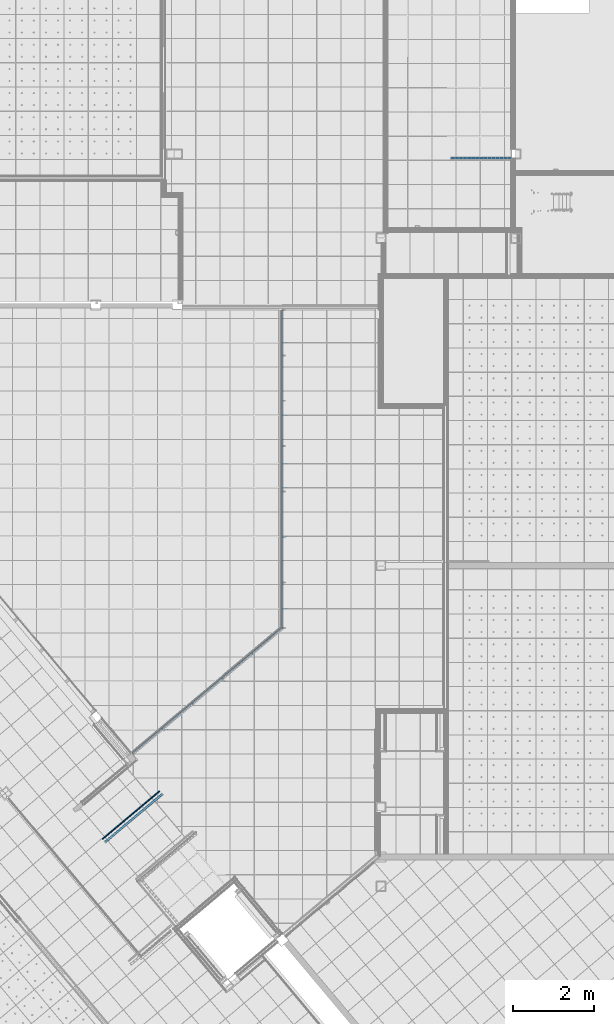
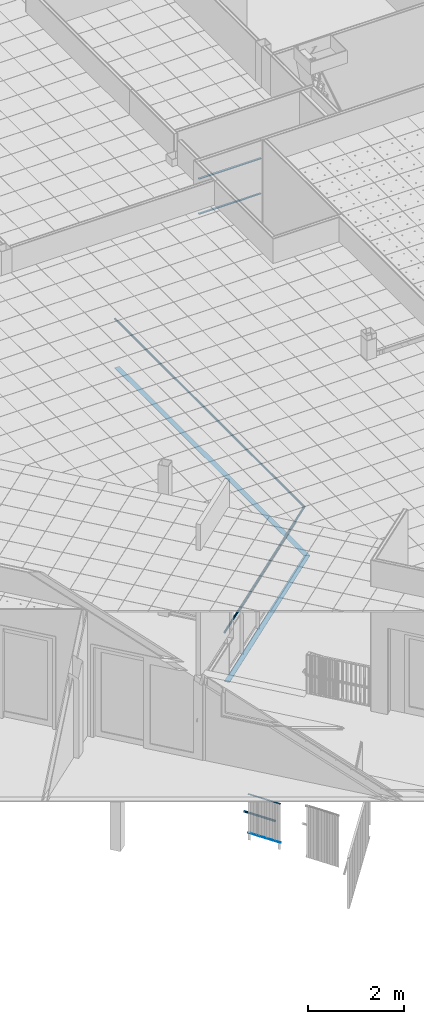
# One storey, part 33 of 321: 9 members, 3 elements without a shape of their own.
"""IFC2X3 building model written with IfcOpenShell, lengths in millimetres."""

from ifc_helpers import new_model, entity, si_unit, converted_unit, derived_unit, money_unit, direction, frame, origin_with_axes, place, context, subcontext, project, spatial, faceted_brep, material, type_object, element, aggregate, save


model = new_model("IFC2X3")

# Units and contexts
model_context = context("Model", 3, precision=0.01, world=origin_with_axes(), true_north=direction((0.0, 1.0)))
plan_context = context("Plan", 3, precision=0.01, world=origin_with_axes(), true_north=direction((0.0, 1.0)))
body_context = subcontext(model_context, "Body", "Model", "MODEL_VIEW")
ifc_project = project(units=[si_unit("LENGTHUNIT", "METRE", prefix="MILLI"), si_unit("AREAUNIT", "SQUARE_METRE"), si_unit("VOLUMEUNIT", "CUBIC_METRE"), converted_unit("PLANEANGLEUNIT", "DEGREE", entity("IfcPlaneAngleMeasure", 0.0174532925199), si_unit("PLANEANGLEUNIT", "RADIAN"), dimensions=[0, 0, 0, 0, 0, 0, 0]), money_unit("EUR"), converted_unit("TIMEUNIT", "Year", entity("IfcTimeMeasure", 31556926.0), si_unit("TIMEUNIT", "SECOND"), dimensions=[0, 0, 1, 0, 0, 0, 0]), si_unit("MASSUNIT", "GRAM", prefix="KILO"), si_unit("THERMODYNAMICTEMPERATUREUNIT", "DEGREE_CELSIUS"), si_unit("LUMINOUSINTENSITYUNIT", "LUMEN"), si_unit("ENERGYUNIT", "JOULE", prefix="MEGA"), derived_unit("THERMALCONDUCTANCEUNIT", [(si_unit("POWERUNIT", "WATT"), 1), (si_unit("LENGTHUNIT", "METRE"), -1), (si_unit("THERMODYNAMICTEMPERATUREUNIT", "KELVIN"), -1)]), derived_unit("SPECIFICHEATCAPACITYUNIT", [(si_unit("ENERGYUNIT", "JOULE"), 1), (si_unit("MASSUNIT", "GRAM", prefix="KILO"), -1), (si_unit("THERMODYNAMICTEMPERATUREUNIT", "KELVIN"), -1)]), derived_unit("MASSDENSITYUNIT", [(si_unit("MASSUNIT", "GRAM", prefix="KILO"), 1), (si_unit("VOLUMEUNIT", "CUBIC_METRE"), -1)])], contexts=[model_context, plan_context])

# Site, building, storey
site_placement = place(None, origin_with_axes())
site = spatial("IfcSite", under=ifc_project, at=site_placement, Name="Fortuinstraat Woensdrecht", CompositionType="ELEMENT")
building_placement = place(site_placement, origin_with_axes())
building = spatial("IfcBuilding", under=site, at=building_placement, Name="IKC Fortuna", CompositionType="ELEMENT")
storey_placement = place(building_placement, frame((0.0, 0.0, 4000.0), z_axis=(0.0, 0.0, 1.0), x_axis=(1.0, 0.0, 0.0)))
storey = spatial("IfcBuildingStorey", under=building, at=storey_placement, Name="01 eerste verdieping", CompositionType="ELEMENT", Elevation=4000.0)

# Railing, members
railing_type = type_object("IfcRailingType", Name="Railing Type", PredefinedType="NOTDEFINED")
railing_1_placement = place(storey_placement, frame((23270.4349765, 16097.2790326, 0.0), z_axis=(0.0, 0.0, 1.0), x_axis=(-1.0, 0.0, 0.0)))
railing_1 = element("IfcRailing", 1, at=railing_1_placement, inside=storey, type_object=railing_type, Name="34_Reling_Reling vide", PredefinedType="NOTDEFINED")
ifc_material = material(Name="Metaal - RVS")
member_type = type_object("IfcMemberType", Name="IfcMember", PredefinedType="USERDEFINED")
member_1_placement = place(railing_1_placement, frame((100.0, 3983.38437738, 1144.09830056), z_axis=(0.0, 0.0, 1.0), x_axis=(-1.0, 0.0, 0.0)))
member_1 = element("IfcMember", 2, at=member_1_placement, type_object=member_type, material=ifc_material, Name="_Reling - regel_Handregel-x", context=body_context, shape_type="Brep", body=[
    faceted_brep([(25.0, 3945.90197306, 30.9016994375), (24.6201938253, 3945.90197306, 35.2429038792), (24.6201938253, -3957.38255798, 35.2429038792), (25.0, -3957.55966451, 30.9016994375), (24.6201938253, 3945.90197306, 26.5604949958), (23.4923155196, 3945.90197306, 22.3511958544), (21.6506350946, 3945.90197306, 18.4016994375), (19.151111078, 3945.90197306, 14.8320091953), (16.0696902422, 3945.90197306, 11.7505883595), (12.5, 3945.90197306, 9.25106434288), (8.55050358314, 3945.90197306, 7.40938391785), (4.34120444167, 3945.90197306, 6.28150561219), (0.0, 3945.90197306, 5.9016994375), (-4.34120444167, 3945.90197306, 6.28150561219), (-8.55050358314, 3945.90197306, 7.40938391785), (-12.5, 3945.90197306, 9.25106434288), (-16.0696902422, 3945.90197306, 11.7505883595), (-19.151111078, 3945.90197306, 14.8320091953), (-21.6506350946, 3945.90197306, 18.4016994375), (-23.4923155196, 3945.90197306, 22.3511958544), (-24.6201938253, 3945.90197306, 26.5604949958), (-25.0, 3945.90197306, 30.9016994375), (-24.6201938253, 3945.90197306, 35.2429038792), (-23.4923155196, 3945.90197306, 39.4522030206), (-21.6506350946, 3945.90197306, 43.4016994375), (-19.151111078, 3945.90197306, 46.9713896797), (-16.0696902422, 3945.90197306, 50.0528105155), (-12.5, 3945.90197306, 52.5523345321), (-8.55050358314, 3945.90197306, 54.3940149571), (-4.34120444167, 3945.90197306, 55.5218932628), (0.0, 3945.90197306, 55.9016994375), (4.34120444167, 3945.90197306, 55.5218932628), (8.55050358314, 3945.90197306, 54.3940149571), (12.5, 3945.90197306, 52.5523345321), (16.0696902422, 3945.90197306, 50.0528105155), (19.151111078, 3945.90197306, 46.9713896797), (21.6506350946, 3945.90197306, 43.4016994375), (23.4923155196, 3945.90197306, 39.4522030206), (23.0, 3945.90197306, 30.9016994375), (22.6505783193, 3945.90197306, 34.8956075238), (21.6129302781, 3945.90197306, 38.768162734), (19.918584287, 3945.90197306, 42.4016994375), (17.6190221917, 3945.90197306, 45.6858144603), (14.7841150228, 3945.90197306, 48.5207216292), (11.5, 3945.90197306, 50.8202837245), (7.86646329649, 3945.90197306, 52.5146297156), (3.99390808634, 3945.90197306, 53.5522777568), (0.0, 3945.90197306, 53.9016994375), (-3.99390808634, 3945.90197306, 53.5522777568), (-7.86646329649, 3945.90197306, 52.5146297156), (-11.5, 3945.90197306, 50.8202837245), (-14.7841150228, 3945.90197306, 48.5207216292), (-17.6190221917, 3945.90197306, 45.6858144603), (-19.918584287, 3945.90197306, 42.4016994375), (-21.6129302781, 3945.90197306, 38.768162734), (-22.6505783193, 3945.90197306, 34.8956075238), (-23.0, 3945.90197306, 30.9016994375), (-22.6505783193, 3945.90197306, 26.9077913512), (-21.6129302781, 3945.90197306, 23.035236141), (-19.918584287, 3945.90197306, 19.4016994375), (-17.6190221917, 3945.90197306, 16.1175844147), (-14.7841150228, 3945.90197306, 13.2826772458), (-11.5, 3945.90197306, 10.9831151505), (-7.86646329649, 3945.90197306, 9.28876915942), (-3.99390808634, 3945.90197306, 8.25112111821), (0.0, 3945.90197306, 7.90169943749), (3.99390808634, 3945.90197306, 8.25112111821), (7.86646329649, 3945.90197306, 9.28876915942), (11.5, 3945.90197306, 10.9831151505), (14.7841150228, 3945.90197306, 13.2826772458), (17.6190221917, 3945.90197306, 16.1175844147), (19.918584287, 3945.90197306, 19.4016994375), (21.6129302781, 3945.90197306, 23.035236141), (22.6505783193, 3945.90197306, 26.9077913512), (23.4923155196, -3956.85661969, 39.4522030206), (21.6506350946, -3955.99783001, 43.4016994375), (19.151111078, -3954.83228281, 46.9713896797), (16.0696902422, -3953.39539268, 50.0528105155), (12.5, -3951.73081878, 52.5523345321), (8.55050358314, -3949.88913836, 54.3940149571), (4.34120444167, -3947.92630993, 55.5218932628), (0.0, -3945.90197306, 55.9016994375), (-4.34120444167, -3943.87763618, 55.5218932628), (-8.55050358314, -3941.91480775, 54.3940149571), (-12.5, -3940.07312733, 52.5523345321), (-16.0696902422, -3938.40855343, 50.0528105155), (-19.151111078, -3936.9716633, 46.9713896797), (-21.6506350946, -3935.80611611, 43.4016994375), (-23.4923155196, -3934.94732642, 39.4522030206), (-24.6201938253, -3934.42138813, 35.2429038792), (-25.0, -3934.2442816, 30.9016994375), (-24.6201938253, -3934.42138813, 26.5604949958), (-23.4923155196, -3934.94732642, 22.3511958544), (-21.6506350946, -3935.80611611, 18.4016994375), (-19.151111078, -3936.9716633, 14.8320091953), (-16.0696902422, -3938.40855343, 11.7505883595), (-12.5, -3940.07312733, 9.25106434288), (-8.55050358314, -3941.91480775, 7.40938391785), (-4.34120444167, -3943.87763618, 6.28150561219), (0.0, -3945.90197306, 5.9016994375), (4.34120444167, -3947.92630993, 6.28150561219), (8.55050358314, -3949.88913836, 7.40938391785), (12.5, -3951.73081878, 9.25106434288), (16.0696902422, -3953.39539268, 11.7505883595), (19.151111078, -3954.83228281, 14.8320091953), (21.6506350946, -3955.99783001, 18.4016994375), (23.4923155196, -3956.85661969, 22.3511958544), (24.6201938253, -3957.38255798, 26.5604949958), (23.0, -3956.62704919, 30.9016994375), (22.6505783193, -3956.46411119, 26.9077913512), (21.6129302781, -3955.98024796, 23.035236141), (19.918584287, -3955.19016145, 19.4016994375), (17.6190221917, -3954.11785803, 16.1175844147), (14.7841150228, -3952.79591911, 13.2826772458), (11.5, -3951.26451113, 10.9831151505), (7.86646329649, -3949.57016513, 9.28876915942), (3.99390808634, -3947.76436298, 8.25112111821), (0.0, -3945.90197306, 7.90169943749), (-3.99390808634, -3944.03958313, 8.25112111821), (-7.86646329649, -3942.23378098, 9.28876915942), (-11.5, -3940.53943499, 10.9831151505), (-14.7841150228, -3939.008027, 13.2826772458), (-17.6190221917, -3937.68608808, 16.1175844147), (-19.918584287, -3936.61378466, 19.4016994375), (-21.6129302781, -3935.82369815, 23.035236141), (-22.6505783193, -3935.33983492, 26.9077913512), (-23.0, -3935.17689692, 30.9016994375), (-22.6505783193, -3935.33983492, 34.8956075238), (-21.6129302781, -3935.82369815, 38.768162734), (-19.918584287, -3936.61378466, 42.4016994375), (-17.6190221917, -3937.68608808, 45.6858144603), (-14.7841150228, -3939.008027, 48.5207216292), (-11.5, -3940.53943499, 50.8202837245), (-7.86646329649, -3942.23378098, 52.5146297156), (-3.99390808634, -3944.03958313, 53.5522777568), (0.0, -3945.90197306, 53.9016994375), (3.99390808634, -3947.76436298, 53.5522777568), (7.86646329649, -3949.57016513, 52.5146297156), (11.5, -3951.26451113, 50.8202837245), (14.7841150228, -3952.79591911, 48.5207216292), (17.6190221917, -3954.11785803, 45.6858144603), (19.918584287, -3955.19016145, 42.4016994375), (21.6129302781, -3955.98024796, 38.768162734), (22.6505783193, -3956.46411119, 34.8956075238)], [[[0, 1, 2, 3]], [[0, 4, 5, 6, 7, 8, 9, 10, 11, 12, 13, 14, 15, 16, 17, 18, 19, 20, 21, 22, 23, 24, 25, 26, 27, 28, 29, 30, 31, 32, 33, 34, 35, 36, 37, 1], [38, 39, 40, 41, 42, 43, 44, 45, 46, 47, 48, 49, 50, 51, 52, 53, 54, 55, 56, 57, 58, 59, 60, 61, 62, 63, 64, 65, 66, 67, 68, 69, 70, 71, 72, 73]], [[1, 37, 74, 2]], [[3, 2, 74, 75, 76, 77, 78, 79, 80, 81, 82, 83, 84, 85, 86, 87, 88, 89, 90, 91, 92, 93, 94, 95, 96, 97, 98, 99, 100, 101, 102, 103, 104, 105, 106, 107], [108, 109, 110, 111, 112, 113, 114, 115, 116, 117, 118, 119, 120, 121, 122, 123, 124, 125, 126, 127, 128, 129, 130, 131, 132, 133, 134, 135, 136, 137, 138, 139, 140, 141, 142, 143]], [[4, 0, 3, 107]], [[5, 4, 107, 106]], [[6, 5, 106, 105]], [[7, 6, 105, 104]], [[8, 7, 104, 103]], [[9, 8, 103, 102]], [[10, 9, 102, 101]], [[11, 10, 101, 100]], [[12, 11, 100, 99]], [[13, 12, 99, 98]], [[14, 13, 98, 97]], [[15, 14, 97, 96]], [[16, 15, 96, 95]], [[17, 16, 95, 94]], [[18, 17, 94, 93]], [[19, 18, 93, 92]], [[20, 19, 92, 91]], [[21, 20, 91, 90]], [[22, 21, 90, 89]], [[23, 22, 89, 88]], [[24, 23, 88, 87]], [[25, 24, 87, 86]], [[26, 25, 86, 85]], [[27, 26, 85, 84]], [[28, 27, 84, 83]], [[29, 28, 83, 82]], [[30, 29, 82, 81]], [[31, 30, 81, 80]], [[32, 31, 80, 79]], [[33, 32, 79, 78]], [[34, 33, 78, 77]], [[35, 34, 77, 76]], [[36, 35, 76, 75]], [[37, 36, 75, 74]], [[39, 38, 108, 143]], [[40, 39, 143, 142]], [[41, 40, 142, 141]], [[42, 41, 141, 140]], [[43, 42, 140, 139]], [[44, 43, 139, 138]], [[45, 44, 138, 137]], [[46, 45, 137, 136]], [[47, 46, 136, 135]], [[48, 47, 135, 134]], [[49, 48, 134, 133]], [[50, 49, 133, 132]], [[51, 50, 132, 131]], [[52, 51, 131, 130]], [[53, 52, 130, 129]], [[54, 53, 129, 128]], [[55, 54, 128, 127]], [[56, 55, 127, 126]], [[57, 56, 126, 125]], [[58, 57, 125, 124]], [[59, 58, 124, 123]], [[60, 59, 123, 122]], [[61, 60, 122, 121]], [[62, 61, 121, 120]], [[63, 62, 120, 119]], [[64, 63, 119, 118]], [[65, 64, 118, 117]], [[66, 65, 117, 116]], [[67, 66, 116, 115]], [[68, 67, 115, 114]], [[69, 68, 114, 113]], [[70, 69, 113, 112]], [[71, 70, 112, 111]], [[72, 71, 111, 110]], [[73, 72, 110, 109]], [[38, 73, 109, 108]]]),
])
member_2_placement = place(railing_1_placement, frame((50.0, 3995.04206883, -135.207972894), z_axis=(0.0, 0.0, 1.0), x_axis=(-1.0, 0.0, 0.0)))
member_2 = element("IfcMember", 3, at=member_2_placement, type_object=member_type, material=ifc_material, Name="_Reling - regel_Regel-x", context=body_context, shape_type="Brep", body=[
    faceted_brep([(-60.0, 3957.55966451, 65.207972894), (-60.0, 3957.55966451, 55.207972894), (-60.0, -3929.58120502, 55.207972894), (-60.0, -3929.58120502, 65.207972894), (60.0, 3957.55966451, 65.207972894), (60.0, 3957.55966451, 55.207972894), (60.0, -3985.538124, 55.207972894), (60.0, -3985.538124, 65.207972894)], [[[0, 1, 2, 3]], [[0, 4, 5, 1]], [[1, 5, 6, 2]], [[3, 2, 6, 7]], [[4, 0, 3, 7]], [[5, 4, 7, 6]]]),
])
member_3_placement = place(railing_1_placement, frame((1960.47961043, 9490.41410536, 1144.09830056), z_axis=(0.0, 0.0, 1.0), x_axis=(-1.0, 0.0, 0.0)))
member_3 = element("IfcMember", 4, at=member_3_placement, type_object=member_type, material=ifc_material, Name="_Reling - regel_Handregel-x", context=body_context, shape_type="Brep", body=[
    faceted_brep([(1885.47961043, 1549.47006347, 30.9016994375), (1885.09980426, 1549.64717, 35.2429038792), (-1844.6540549, -1579.9879176, 35.2429038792), (-1844.40992019, -1580.27886601, 30.9016994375), (1885.09980426, 1549.64717, 26.5604949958), (1883.97192595, 1550.17310829, 22.3511958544), (1882.13024553, 1551.03189798, 18.4016994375), (1879.63072151, 1552.19744517, 14.8320091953), (1876.54930068, 1553.6343353, 11.7505883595), (1872.97961043, 1555.2989092, 9.25106434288), (1869.03011402, 1557.14058963, 7.40938391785), (1864.82081488, 1559.10341805, 6.28150561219), (1860.47961043, 1561.12775493, 5.9016994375), (1856.13840599, 1563.1520918, 6.28150561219), (1851.92910685, 1565.11492023, 7.40938391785), (1847.97961043, 1566.95660066, 9.25106434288), (1844.40992019, 1568.62117455, 11.7505883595), (1841.32849936, 1570.05806469, 14.8320091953), (1838.82897534, 1571.22361188, 18.4016994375), (1836.98729491, 1572.08240156, 22.3511958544), (1835.85941661, 1572.60833985, 26.5604949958), (1835.47961043, 1572.78544638, 30.9016994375), (1835.85941661, 1572.60833985, 35.2429038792), (1836.98729491, 1572.08240156, 39.4522030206), (1838.82897534, 1571.22361188, 43.4016994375), (1841.32849936, 1570.05806469, 46.9713896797), (1844.40992019, 1568.62117455, 50.0528105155), (1847.97961043, 1566.95660066, 52.5523345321), (1851.92910685, 1565.11492023, 54.3940149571), (1856.13840599, 1563.1520918, 55.5218932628), (1860.47961043, 1561.12775493, 55.9016994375), (1864.82081488, 1559.10341805, 55.5218932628), (1869.03011402, 1557.14058963, 54.3940149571), (1872.97961043, 1555.2989092, 52.5523345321), (1876.54930068, 1553.6343353, 50.0528105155), (1879.63072151, 1552.19744517, 46.9713896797), (1882.13024553, 1551.03189798, 43.4016994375), (1883.97192595, 1550.17310829, 39.4522030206), (1883.47961043, 1550.40267879, 30.9016994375), (1883.13018875, 1550.5656168, 34.8956075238), (1882.09254071, 1551.04948002, 38.768162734), (1880.39819472, 1551.83956654, 42.4016994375), (1878.09863263, 1552.91186995, 45.6858144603), (1875.26372546, 1554.23380887, 48.5207216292), (1871.97961043, 1555.76521686, 50.8202837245), (1868.34607373, 1557.45956285, 52.5146297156), (1864.47351852, 1559.265365, 53.5522777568), (1860.47961043, 1561.12775493, 53.9016994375), (1856.48570235, 1562.99014485, 53.5522777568), (1852.61314714, 1564.79594701, 52.5146297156), (1848.97961043, 1566.490293, 50.8202837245), (1845.69549541, 1568.02170098, 48.5207216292), (1842.86058824, 1569.34363991, 45.6858144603), (1840.56102615, 1570.41594332, 42.4016994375), (1838.86668016, 1571.20602983, 38.768162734), (1837.82903211, 1571.68989306, 34.8956075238), (1837.47961043, 1571.85283107, 30.9016994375), (1837.82903211, 1571.68989306, 26.9077913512), (1838.86668016, 1571.20602983, 23.035236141), (1840.56102615, 1570.41594332, 19.4016994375), (1842.86058824, 1569.34363991, 16.1175844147), (1845.69549541, 1568.02170098, 13.2826772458), (1848.97961043, 1566.490293, 10.9831151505), (1852.61314714, 1564.79594701, 9.28876915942), (1856.48570235, 1562.99014485, 8.25112111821), (1860.47961043, 1561.12775493, 7.90169943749), (1864.47351852, 1559.265365, 8.25112111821), (1868.34607373, 1557.45956285, 9.28876915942), (1871.97961043, 1555.76521686, 10.9831151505), (1875.26372546, 1554.23380887, 13.2826772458), (1878.09863263, 1552.91186995, 16.1175844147), (1880.39819472, 1551.83956654, 19.4016994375), (1882.09254071, 1551.04948002, 23.035236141), (1883.13018875, 1550.5656168, 26.9077913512), (-1845.3790411, -1579.12391269, 39.4522030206), (-1846.56285045, -1577.71310363, 43.4016994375), (-1848.16951352, -1575.79835715, 46.9713896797), (-1850.15021265, -1573.43785184, 50.0528105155), (-1852.44476531, -1570.70331047, 52.5523345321), (-1854.98345267, -1567.67782068, 54.3940149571), (-1857.68913801, -1564.45331047, 55.5218932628), (-1860.47961043, -1561.12775493, 55.9016994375), (-1863.27008286, -1557.80219939, 55.5218932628), (-1865.97576819, -1554.57768917, 54.3940149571), (-1868.51445556, -1551.55219939, 52.5523345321), (-1870.80900821, -1548.81765802, 50.0528105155), (-1872.78970735, -1546.45715271, 46.9713896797), (-1874.39637041, -1544.54240622, 43.4016994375), (-1875.58017977, -1543.13159717, 39.4522030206), (-1876.30516597, -1542.26759226, 35.2429038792), (-1876.54930068, -1541.97664385, 30.9016994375), (-1876.30516597, -1542.26759226, 26.5604949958), (-1875.58017977, -1543.13159717, 22.3511958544), (-1874.39637041, -1544.54240622, 18.4016994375), (-1872.78970735, -1546.45715271, 14.8320091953), (-1870.80900821, -1548.81765802, 11.7505883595), (-1868.51445556, -1551.55219939, 9.25106434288), (-1865.97576819, -1554.57768917, 7.40938391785), (-1863.27008286, -1557.80219939, 6.28150561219), (-1860.47961043, -1561.12775493, 5.9016994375), (-1857.68913801, -1564.45331047, 6.28150561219), (-1854.98345267, -1567.67782068, 7.40938391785), (-1852.44476531, -1570.70331047, 9.25106434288), (-1850.15021265, -1573.43785184, 11.7505883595), (-1848.16951352, -1575.79835715, 14.8320091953), (-1846.56285045, -1577.71310363, 18.4016994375), (-1845.3790411, -1579.12391269, 22.3511958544), (-1844.6540549, -1579.9879176, 26.5604949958), (-1845.69549541, -1578.74677712, 30.9016994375), (-1845.92009934, -1578.47910458, 26.9077913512), (-1846.58708664, -1577.68422007, 23.035236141), (-1847.67619125, -1576.38627574, 19.4016994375), (-1849.15432127, -1574.62470897, 16.1175844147), (-1850.97656448, -1572.45304409, 13.2826772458), (-1853.08755292, -1569.93726602, 10.9831151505), (-1855.4231453, -1567.15381542, 9.28876915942), (-1857.9123758, -1564.18726602, 8.25112111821), (-1860.47961043, -1561.12775493, 7.90169943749), (-1863.04684507, -1558.06824383, 8.25112111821), (-1865.53607557, -1555.10169443, 9.28876915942), (-1867.87166795, -1552.31824383, 10.9831151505), (-1869.98265639, -1549.80246577, 13.2826772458), (-1871.80489959, -1547.63080088, 16.1175844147), (-1873.28302962, -1545.86923412, 19.4016994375), (-1874.37213423, -1544.57128979, 23.035236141), (-1875.03912153, -1543.77640527, 26.9077913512), (-1875.26372546, -1543.50873274, 30.9016994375), (-1875.03912153, -1543.77640527, 34.8956075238), (-1874.37213423, -1544.57128979, 38.768162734), (-1873.28302962, -1545.86923412, 42.4016994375), (-1871.80489959, -1547.63080088, 45.6858144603), (-1869.98265639, -1549.80246577, 48.5207216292), (-1867.87166795, -1552.31824383, 50.8202837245), (-1865.53607557, -1555.10169443, 52.5146297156), (-1863.04684507, -1558.06824383, 53.5522777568), (-1860.47961043, -1561.12775493, 53.9016994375), (-1857.9123758, -1564.18726602, 53.5522777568), (-1855.4231453, -1567.15381542, 52.5146297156), (-1853.08755292, -1569.93726602, 50.8202837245), (-1850.97656448, -1572.45304409, 48.5207216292), (-1849.15432127, -1574.62470897, 45.6858144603), (-1847.67619125, -1576.38627574, 42.4016994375), (-1846.58708664, -1577.68422007, 38.768162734), (-1845.92009934, -1578.47910458, 34.8956075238)], [[[0, 1, 2, 3]], [[0, 4, 5, 6, 7, 8, 9, 10, 11, 12, 13, 14, 15, 16, 17, 18, 19, 20, 21, 22, 23, 24, 25, 26, 27, 28, 29, 30, 31, 32, 33, 34, 35, 36, 37, 1], [38, 39, 40, 41, 42, 43, 44, 45, 46, 47, 48, 49, 50, 51, 52, 53, 54, 55, 56, 57, 58, 59, 60, 61, 62, 63, 64, 65, 66, 67, 68, 69, 70, 71, 72, 73]], [[1, 37, 74, 2]], [[3, 2, 74, 75, 76, 77, 78, 79, 80, 81, 82, 83, 84, 85, 86, 87, 88, 89, 90, 91, 92, 93, 94, 95, 96, 97, 98, 99, 100, 101, 102, 103, 104, 105, 106, 107], [108, 109, 110, 111, 112, 113, 114, 115, 116, 117, 118, 119, 120, 121, 122, 123, 124, 125, 126, 127, 128, 129, 130, 131, 132, 133, 134, 135, 136, 137, 138, 139, 140, 141, 142, 143]], [[4, 0, 3, 107]], [[5, 4, 107, 106]], [[6, 5, 106, 105]], [[7, 6, 105, 104]], [[8, 7, 104, 103]], [[9, 8, 103, 102]], [[10, 9, 102, 101]], [[11, 10, 101, 100]], [[12, 11, 100, 99]], [[13, 12, 99, 98]], [[14, 13, 98, 97]], [[15, 14, 97, 96]], [[16, 15, 96, 95]], [[17, 16, 95, 94]], [[18, 17, 94, 93]], [[19, 18, 93, 92]], [[20, 19, 92, 91]], [[21, 20, 91, 90]], [[22, 21, 90, 89]], [[23, 22, 89, 88]], [[24, 23, 88, 87]], [[25, 24, 87, 86]], [[26, 25, 86, 85]], [[27, 26, 85, 84]], [[28, 27, 84, 83]], [[29, 28, 83, 82]], [[30, 29, 82, 81]], [[31, 30, 81, 80]], [[32, 31, 80, 79]], [[33, 32, 79, 78]], [[34, 33, 78, 77]], [[35, 34, 77, 76]], [[36, 35, 76, 75]], [[37, 36, 75, 74]], [[39, 38, 108, 143]], [[40, 39, 143, 142]], [[41, 40, 142, 141]], [[42, 41, 141, 140]], [[43, 42, 140, 139]], [[44, 43, 139, 138]], [[45, 44, 138, 137]], [[46, 45, 137, 136]], [[47, 46, 136, 135]], [[48, 47, 135, 134]], [[49, 48, 134, 133]], [[50, 49, 133, 132]], [[51, 50, 132, 131]], [[52, 51, 131, 130]], [[53, 52, 130, 129]], [[54, 53, 129, 128]], [[55, 54, 128, 127]], [[56, 55, 127, 126]], [[57, 56, 126, 125]], [[58, 57, 125, 124]], [[59, 58, 124, 123]], [[60, 59, 123, 122]], [[61, 60, 122, 121]], [[62, 61, 121, 120]], [[63, 62, 120, 119]], [[64, 63, 119, 118]], [[65, 64, 118, 117]], [[66, 65, 117, 116]], [[67, 66, 116, 115]], [[68, 67, 115, 114]], [[69, 68, 114, 113]], [[70, 69, 113, 112]], [[71, 70, 112, 111]], [[72, 71, 111, 110]], [[73, 72, 110, 109]], [[38, 73, 109, 108]]]),
])
member_4_placement = place(railing_1_placement, frame((1919.40992019, 9521.22290789, -135.207972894), z_axis=(0.0, 0.0, 1.0), x_axis=(-1.0, 0.0, 0.0)))
member_4 = element("IfcMember", 5, at=member_4_placement, type_object=member_type, material=ifc_material, Name="_Reling - regel_Regel-x", context=body_context, shape_type="Brep", body=[
    faceted_brep([(1809.40992019, 1596.59963404, 65.207972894), (1809.40992019, 1596.59963404, 55.207972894), (-1907.97717677, -1522.65850797, 55.207972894), (-1907.97717677, -1522.65850797, 65.207972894), (1929.40992019, 1540.64271506, 65.207972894), (1929.40992019, 1540.64271506, 55.207972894), (-1830.84266361, -1614.58384114, 55.207972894), (-1830.84266361, -1614.58384114, 65.207972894)], [[[0, 1, 2, 3]], [[0, 4, 5, 1]], [[1, 5, 6, 2]], [[3, 2, 6, 7]], [[4, 0, 3, 7]], [[5, 4, 7, 6]]]),
])
aggregate(railing_1, [member_1, member_2, member_3, member_4])

railing_2_placement = place(storey_placement, frame((27279.3327381, 19839.7644288, 0.0), z_axis=(0.0, 0.0, 1.0), x_axis=(1.0, 0.0, 0.0)))
railing_2 = element("IfcRailing", 6, at=railing_2_placement, inside=storey, type_object=railing_type, Name="34_Reling_Trapleuning", PredefinedType="NOTDEFINED")
member_5_placement = place(railing_2_placement, frame((823.801121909, -20.0, 967.984378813), z_axis=(0.0, 0.0, 1.0), x_axis=(1.0, 0.0, 0.0)))
member_5 = element("IfcMember", 7, at=member_5_placement, type_object=member_type, material=ifc_material, Name="_Reling - regel_", context=body_context, shape_type="Brep", body=[
    faceted_brep([(-748.801116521, -25.0, 32.0156211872), (-748.801116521, -25.0, 12.0156211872), (748.801116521, -25.0, 12.0156211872), (748.801116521, -25.0, 32.0156211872), (-748.801116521, 25.0, 32.0156211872), (-748.801116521, 25.0, 12.0156211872), (748.801116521, 25.0, 12.0156211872), (748.801116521, 25.0, 32.0156211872)], [[[0, 1, 2, 3]], [[0, 4, 5, 1]], [[1, 5, 6, 2]], [[3, 2, 6, 7]], [[4, 0, 3, 7]], [[5, 4, 7, 6]]]),
])
member_6_placement = place(railing_2_placement, frame((823.801121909, -20.0, 74.504902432), z_axis=(0.0, 0.0, 1.0), x_axis=(1.0, 0.0, 0.0)))
member_6 = element("IfcMember", 8, at=member_6_placement, type_object=member_type, material=ifc_material, Name="_Reling - regel_Regel-x", context=body_context, shape_type="Brep", body=[
    faceted_brep([(-748.801116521, -25.0, 30.495097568), (-748.801116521, -25.0, 20.495097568), (748.801116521, -25.0, 20.495097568), (748.801116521, -25.0, 30.495097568), (-748.801116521, 25.0, 30.495097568), (-748.801116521, 25.0, 20.495097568), (748.801116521, 25.0, 20.495097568), (748.801116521, 25.0, 30.495097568)], [[[0, 1, 2, 3]], [[0, 4, 5, 1]], [[1, 5, 6, 2]], [[3, 2, 6, 7]], [[4, 0, 3, 7]], [[5, 4, 7, 6]]]),
])
aggregate(railing_2, [member_5, member_6])

railing_3_placement = place(storey_placement, frame((20190.3043408, 4042.29479627, -3818.75), z_axis=(0.0, 0.0, 1.0), x_axis=(1.0, 0.0, 0.0)))
railing_3 = element("IfcRailing", 9, at=railing_3_placement, inside=storey, type_object=railing_type, Name="34_Reling_Trapleuning", PredefinedType="NOTDEFINED")
member_7_placement = place(railing_3_placement, frame((-769.029517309, -514.75165539, 505.27864045), z_axis=(0.0, 0.0, 1.0), x_axis=(1.0, 0.0, 0.0)))
member_7 = element("IfcMember", 10, at=member_7_placement, type_object=member_type, material=ifc_material, Name="_Reling - regel_Handregel-x", context=body_context, shape_type="Brep", body=[
    faceted_brep([(708.123613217, 568.078116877, 29.0127838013), (709.574992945, 569.692610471, 31.7405493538), (-699.926519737, -613.019588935, 1481.71970478), (-701.377899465, -614.634082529, 1478.99193923), (706.281617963, 566.929140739, 26.2850182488), (704.104975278, 566.280593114, 23.6401344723), (701.659821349, 566.152179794, 21.1584959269), (699.020450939, 566.547802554, 18.9155059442), (696.267059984, 567.455440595, 16.9793166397), (693.483308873, 568.847515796, 15.4087581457), (690.753780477, 570.681730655, 14.2515510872), (688.161410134, 572.902353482, 13.5428566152), (685.784965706, 575.441911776, 13.3042080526), (683.696654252, 578.223242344, 13.5428566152), (681.959928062, 581.161835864, 14.2515510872), (680.62755668, 584.168404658, 15.4087581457), (679.740023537, 587.151595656, 16.9793166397), (679.324295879, 590.020766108, 18.9155059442), (679.39300538, 592.688737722, 21.1584959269), (679.944064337, 595.07444553, 23.6401344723), (680.960729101, 597.105401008, 26.2850182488), (682.41210883, 598.719894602, 29.0127838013), (684.254104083, 599.868870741, 31.7405493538), (686.430746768, 600.517418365, 34.3854331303), (688.875900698, 600.645831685, 36.8670716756), (691.515271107, 600.250208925, 39.1100616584), (694.268662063, 599.342570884, 41.0462509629), (697.052413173, 597.950495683, 42.6168094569), (699.781941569, 596.116280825, 43.7740165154), (702.374311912, 593.895657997, 44.4827109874), (704.750756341, 591.356099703, 44.72135955), (706.839067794, 588.574769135, 44.4827109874), (708.575793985, 585.636175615, 43.7740165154), (709.908165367, 582.629606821, 42.6168094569), (710.795698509, 579.646415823, 41.0462509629), (711.211426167, 576.777245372, 39.1100616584), (711.142716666, 574.109273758, 36.8670716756), (710.59165771, 571.723565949, 34.3854331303), (-698.909854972, -610.988633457, 1484.36458856), (-698.358796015, -608.602925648, 1486.84622711), (-698.290086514, -605.934954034, 1489.08921709), (-698.705814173, -603.065783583, 1491.02540639), (-699.593347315, -600.082592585, 1492.59596489), (-700.925718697, -597.076023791, 1493.75317195), (-702.662444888, -594.137430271, 1494.46186642), (-704.750756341, -591.356099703, 1494.70051498), (-707.12720077, -588.816541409, 1494.46186642), (-709.719571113, -586.595918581, 1493.75317195), (-712.449099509, -584.761703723, 1492.59596489), (-715.232850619, -583.369628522, 1491.02540639), (-717.986241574, -582.461990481, 1489.08921709), (-720.625611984, -582.066367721, 1486.84622711), (-723.070765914, -582.194781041, 1484.36458856), (-725.247408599, -582.843328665, 1481.71970478), (-727.089403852, -583.992304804, 1478.99193923), (-728.54078358, -585.606798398, 1476.26417368), (-729.557448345, -587.637753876, 1473.6192899), (-730.108507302, -590.023461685, 1471.13765136), (-730.177216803, -592.691433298, 1468.89466138), (-729.761489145, -595.56060375, 1466.95847207), (-728.873956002, -598.543794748, 1465.38791358), (-727.54158462, -601.550363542, 1464.23070652), (-725.804858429, -604.488957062, 1463.52201205), (-723.716546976, -607.27028763, 1463.28336348), (-721.340102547, -609.809845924, 1463.52201205), (-718.747732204, -612.030468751, 1464.23070652), (-716.018203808, -613.86468361, 1465.38791358), (-713.234452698, -615.256758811, 1466.95847207), (-710.481061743, -616.164396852, 1468.89466138), (-707.841691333, -616.560019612, 1471.13765136), (-705.396537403, -616.431606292, 1473.6192899), (-703.219894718, -615.783058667, 1476.26417368)], [[[0, 1, 2, 3]], [[0, 4, 5, 6, 7, 8, 9, 10, 11, 12, 13, 14, 15, 16, 17, 18, 19, 20, 21, 22, 23, 24, 25, 26, 27, 28, 29, 30, 31, 32, 33, 34, 35, 36, 37, 1]], [[1, 37, 38, 2]], [[3, 2, 38, 39, 40, 41, 42, 43, 44, 45, 46, 47, 48, 49, 50, 51, 52, 53, 54, 55, 56, 57, 58, 59, 60, 61, 62, 63, 64, 65, 66, 67, 68, 69, 70, 71]], [[4, 0, 3, 71]], [[5, 4, 71, 70]], [[6, 5, 70, 69]], [[7, 6, 69, 68]], [[8, 7, 68, 67]], [[9, 8, 67, 66]], [[10, 9, 66, 65]], [[11, 10, 65, 64]], [[12, 11, 64, 63]], [[13, 12, 63, 62]], [[14, 13, 62, 61]], [[15, 14, 61, 60]], [[16, 15, 60, 59]], [[17, 16, 59, 58]], [[18, 17, 58, 57]], [[19, 18, 57, 56]], [[20, 19, 56, 55]], [[21, 20, 55, 54]], [[22, 21, 54, 53]], [[23, 22, 53, 52]], [[24, 23, 52, 51]], [[25, 24, 51, 50]], [[26, 25, 50, 49]], [[27, 26, 49, 48]], [[28, 27, 48, 47]], [[29, 28, 47, 46]], [[30, 29, 46, 45]], [[31, 30, 45, 44]], [[32, 31, 44, 43]], [[33, 32, 43, 42]], [[34, 33, 42, 41]], [[35, 34, 41, 40]], [[36, 35, 40, 39]], [[37, 36, 39, 38]]]),
])
member_8_placement = place(railing_3_placement, frame((-704.750756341, -591.356099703, 967.984378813), z_axis=(0.0, 0.0, 1.0), x_axis=(1.0, 0.0, 0.0)))
member_8 = element("IfcMember", 11, at=member_8_placement, type_object=member_type, material=ifc_material, Name="_Reling - regel_", context=body_context, shape_type="Brep", body=[
    faceted_brep([(688.681066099, 610.507210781, 32.0156211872), (679.198170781, 602.550116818, 16.3070454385), (-730.3033419, -580.162082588, 1466.28620087), (-720.820446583, -572.204988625, 1481.99477662), (720.820446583, 572.204988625, 32.0156211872), (711.337551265, 564.247894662, 16.3070454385), (-698.163961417, -618.464304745, 1466.28620087), (-688.681066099, -610.507210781, 1481.99477662)], [[[0, 1, 2, 3]], [[0, 4, 5, 1]], [[1, 5, 6, 2]], [[3, 2, 6, 7]], [[4, 0, 3, 7]], [[5, 4, 7, 6]]]),
])
member_9_placement = place(railing_3_placement, frame((-704.750756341, -591.356099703, -25.495097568), z_axis=(0.0, 0.0, 1.0), x_axis=(1.0, 0.0, 0.0)))
member_9 = element("IfcMember", 12, at=member_9_placement, type_object=member_type, material=ifc_material, Name="_Reling - regel_Regel-x", context=body_context, shape_type="Brep", body=[
    faceted_brep([(723.191170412, 574.194262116, 29.4222415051), (691.051789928, 612.496484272, 29.4222415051), (-718.449722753, -570.215715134, 1479.40139694), (-686.31034227, -608.51793729, 1479.40139694), (718.449722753, 570.215715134, 21.5679536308), (686.31034227, 608.51793729, 21.5679536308), (-723.191170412, -574.194262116, 1471.54710906), (-691.051789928, -612.496484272, 1471.54710906)], [[[0, 1, 2, 3]], [[0, 4, 5, 1]], [[1, 5, 6, 2]], [[3, 2, 6, 7]], [[4, 0, 3, 7]], [[5, 4, 7, 6]]]),
])
aggregate(railing_3, [member_7, member_8, member_9])

save(model, "model.ifc")
